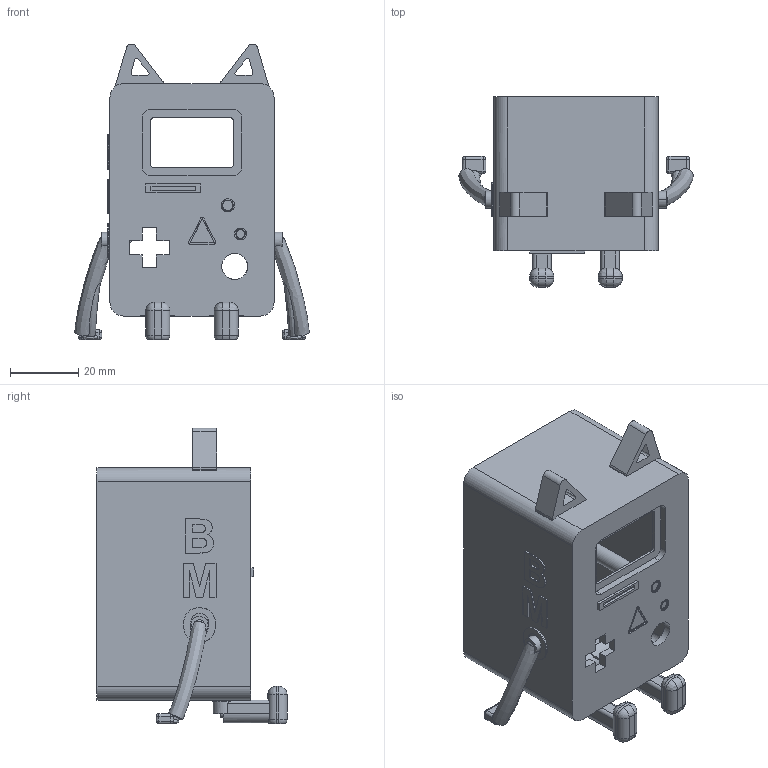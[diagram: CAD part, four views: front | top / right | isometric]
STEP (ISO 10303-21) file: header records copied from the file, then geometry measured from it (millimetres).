
FILE_DESCRIPTION(('FreeCAD Model'),'2;1');
FILE_NAME('Open CASCADE Shape Model','2026-11-17T15:16:24',('FreeCAD'),( 'FreeCAD'),'Open CASCADE STEP processor 7.8','FreeCAD','Unknown');
FILE_SCHEMA(('AUTOMOTIVE_DESIGN { 1 0 10303 214 1 1 1 1 }'));
Length unit declared in the file: millimetre
Products named in the file (1): Open CASCADE STEP translator 7.8 9
Bounding box: 68.58 x 55.6 x 86.59 mm (x, y, z)
Volume: 36899.2 mm3; surface area: 30477.3 mm2
Topology: 1 solids, 1 shells, 640 faces, 1717 edges, 1097 vertices
Faces by surface type: plane 239, cylinder 140, extrusion 127, bspline 105, sphere 29
Full cylindrical faces by diameter (mm): 1.7 x8, 2.6 x1, 2.7 x1, 3 x1, 3.1 x1, 3.5 x1, 3.6 x4, 3.9 x1, 4.4 x2, 5 x2, 6.2 x2, 7.6 x1, 9.8 x1
Entity records: 25659 total; most frequent: CARTESIAN_POINT 10896, ORIENTED_EDGE 3390, DIRECTION 2457, EDGE_CURVE 1695, VERTEX_POINT 1097, VECTOR 897, AXIS2_PLACEMENT_3D 780, LINE 770
